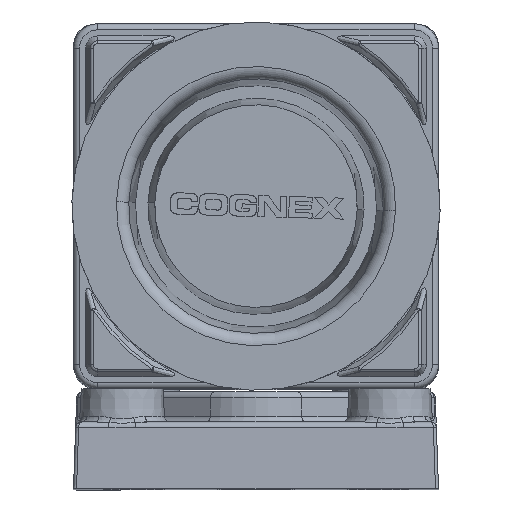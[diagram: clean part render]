
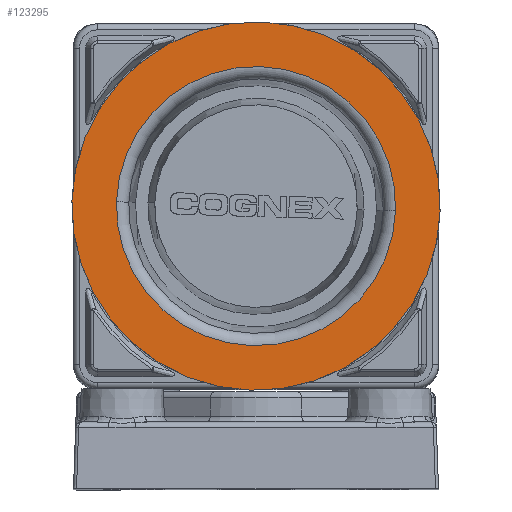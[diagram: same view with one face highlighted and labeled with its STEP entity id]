
A CAD part, top view. The second image highlights one B-rep face of the part: STEP entity #123295.
In plain terms, the highlighted planar face has unit normal (0, 0, 1).
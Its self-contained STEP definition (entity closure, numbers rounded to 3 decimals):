
#72766 = EDGE_CURVE ( 'NONE', #72769, #72849, #113719, .T. ) ;
#72769 = VERTEX_POINT ( 'NONE', #113710 ) ;
#72821 = EDGE_CURVE ( 'NONE', #72890, #72823, #114273, .T. ) ;
#72823 = VERTEX_POINT ( 'NONE', #114264 ) ;
#72849 = VERTEX_POINT ( 'NONE', #114302 ) ;
#72890 = VERTEX_POINT ( 'NONE', #114569 ) ;
#84472 = DIRECTION ( 'NONE',  ( 1., -0.031, 0. ) ) ;
#84474 = DIRECTION ( 'NONE',  ( 0., 0., 1. ) ) ;
#84475 = CARTESIAN_POINT ( 'NONE',  ( 1.464, -1.016, 29.593 ) ) ;
#84476 = AXIS2_PLACEMENT_3D ( 'NONE', #84475, #84474, #84472 ) ;
#84478 = CIRCLE ( 'NONE', #84476, 15.137 ) ;
#84856 = FACE_OUTER_BOUND ( 'NONE', #123258, .T. ) ;
#84858 = FACE_BOUND ( 'NONE', #123310, .T. ) ;
#84947 = DIRECTION ( 'NONE',  ( 1., -0.031, 0. ) ) ;
#84949 = DIRECTION ( 'NONE',  ( 0., 0., 1. ) ) ;
#84951 = CARTESIAN_POINT ( 'NONE',  ( 1.464, -1.016, 29.593 ) ) ;
#84953 = AXIS2_PLACEMENT_3D ( 'NONE', #84951, #84949, #84947 ) ;
#84958 = PLANE ( 'NONE',  #84953 ) ;
#85343 = DIRECTION ( 'NONE',  ( 1., -0.031, 0. ) ) ;
#85345 = DIRECTION ( 'NONE',  ( 0., 0., -1. ) ) ;
#85347 = CARTESIAN_POINT ( 'NONE',  ( 1.464, -1.016, 29.593 ) ) ;
#85348 = AXIS2_PLACEMENT_3D ( 'NONE', #85347, #85345, #85343 ) ;
#85361 = CIRCLE ( 'NONE', #85348, 11.472 ) ;
#113710 = CARTESIAN_POINT ( 'NONE',  ( 16.593, -1.486, 29.593 ) ) ;
#113712 = DIRECTION ( 'NONE',  ( 1., -0.031, 0. ) ) ;
#113714 = DIRECTION ( 'NONE',  ( 0., 0., 1. ) ) ;
#113716 = CARTESIAN_POINT ( 'NONE',  ( 1.464, -1.016, 29.593 ) ) ;
#113718 = AXIS2_PLACEMENT_3D ( 'NONE', #113716, #113714, #113712 ) ;
#113719 = CIRCLE ( 'NONE', #113718, 15.137 ) ;
#114264 = CARTESIAN_POINT ( 'NONE',  ( 12.931, -1.372, 29.593 ) ) ;
#114266 = DIRECTION ( 'NONE',  ( 1., -0.031, 0. ) ) ;
#114268 = DIRECTION ( 'NONE',  ( 0., 0., -1. ) ) ;
#114270 = CARTESIAN_POINT ( 'NONE',  ( 1.464, -1.016, 29.593 ) ) ;
#114271 = AXIS2_PLACEMENT_3D ( 'NONE', #114270, #114268, #114266 ) ;
#114273 = CIRCLE ( 'NONE', #114271, 11.472 ) ;
#114302 = CARTESIAN_POINT ( 'NONE',  ( -13.665, -0.546, 29.593 ) ) ;
#114569 = CARTESIAN_POINT ( 'NONE',  ( -10.002, -0.66, 29.593 ) ) ;
#123175 = EDGE_CURVE ( 'NONE', #72849, #72769, #84478, .T. ) ;
#123258 = EDGE_LOOP ( 'NONE', ( #123283, #123303 ) ) ;
#123283 = ORIENTED_EDGE ( 'NONE', *, *, #72766, .T. ) ;
#123295 = ADVANCED_FACE ( 'NONE', ( #84858, #84856 ), #84958, .T. ) ;
#123303 = ORIENTED_EDGE ( 'NONE', *, *, #123175, .T. ) ;
#123310 = EDGE_LOOP ( 'NONE', ( #123319, #123417 ) ) ;
#123319 = ORIENTED_EDGE ( 'NONE', *, *, #123413, .T. ) ;
#123413 = EDGE_CURVE ( 'NONE', #72823, #72890, #85361, .T. ) ;
#123417 = ORIENTED_EDGE ( 'NONE', *, *, #72821, .T. ) ;
